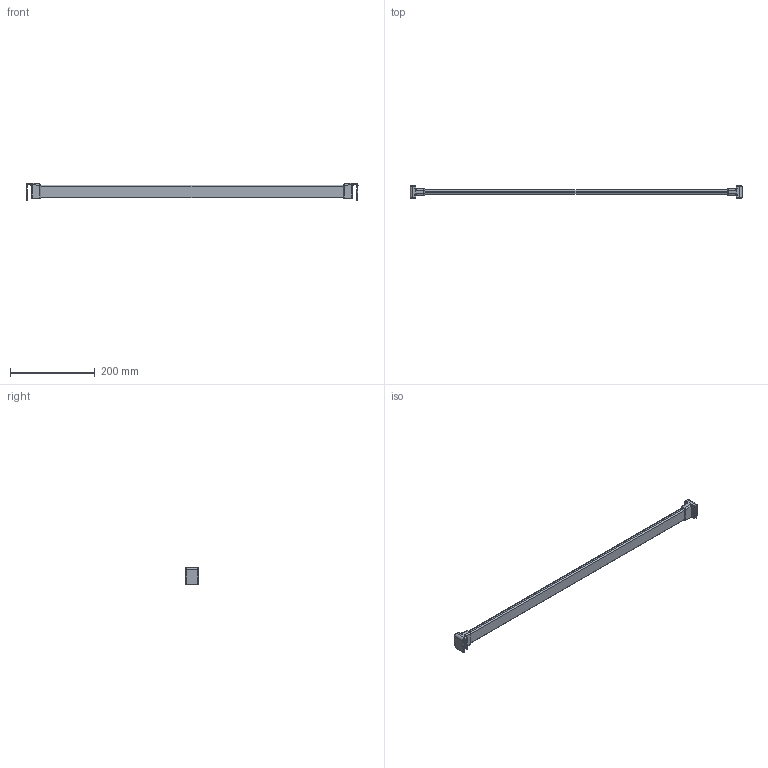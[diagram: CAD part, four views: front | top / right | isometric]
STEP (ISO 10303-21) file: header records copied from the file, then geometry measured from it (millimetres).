
FILE_DESCRIPTION (( 'STEP AP214' ), '1' );
FILE_NAME ('_Querreling_KAB-850_KS-19_P602_Glashalter.step', '2010-08-26T14:58:52', ( 'grass' ), ( '' ), 'SwSTEP 2.0', 'SolidWorks 2009', '' );
FILE_SCHEMA (( 'AUTOMOTIVE_DESIGN' ));
Length unit declared in the file: millimetre
Products named in the file (1): _Querreling_KAB-850_KS-19_P602_Glashalter
Bounding box: 784.78 x 30 x 41.5 mm (x, y, z)
Volume: 256908.4 mm3; surface area: 69405.5 mm2
Topology: 1 solids, 1 shells, 124 faces, 300 edges, 176 vertices
Faces by surface type: cylinder 58, plane 34, torus 16, bspline 12, sphere 4
Entity records: 5090 total; most frequent: CARTESIAN_POINT 2269, ORIENTED_EDGE 592, DIRECTION 590, EDGE_CURVE 296, AXIS2_PLACEMENT_3D 225, VERTEX_POINT 176, LINE 140, VECTOR 140
